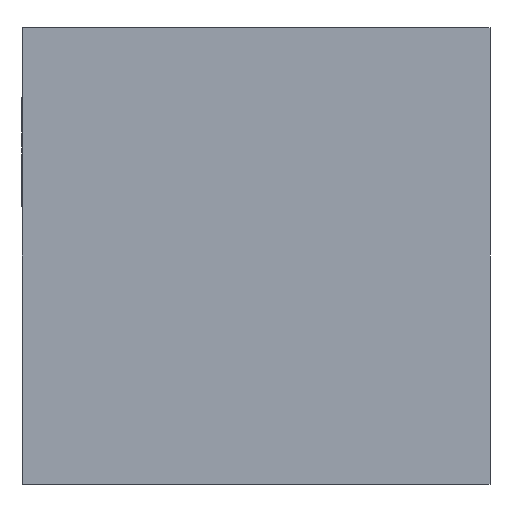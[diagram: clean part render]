
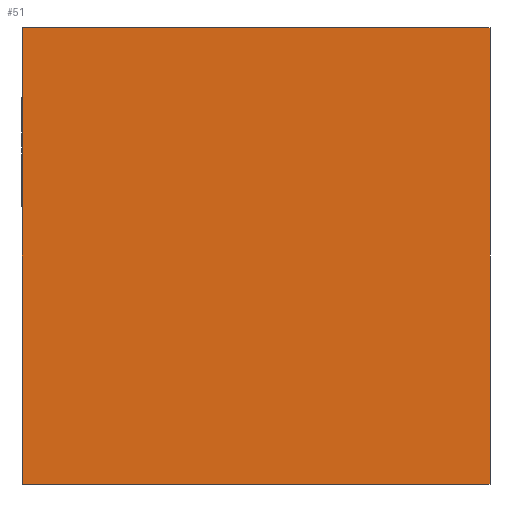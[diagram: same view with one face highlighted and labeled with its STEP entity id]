
A CAD part, front view. The second image highlights one B-rep face of the part: STEP entity #51.
In plain terms, the highlighted planar face has unit normal (0, -1, 0).
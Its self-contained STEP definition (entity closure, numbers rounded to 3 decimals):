
#3 = CARTESIAN_POINT ( 'NONE',  ( 30.5, -35.5, -20. ) ) ;
#31 = FACE_OUTER_BOUND ( 'NONE', #83, .T. ) ;
#50 = VERTEX_POINT ( 'NONE', #880 ) ;
#51 = ADVANCED_FACE ( 'NONE', ( #31 ), #446, .F. ) ;
#83 = EDGE_LOOP ( 'NONE', ( #300, #285, #428, #745 ) ) ;
#155 = DIRECTION ( 'NONE',  ( 1., 0., 0. ) ) ;
#161 = CARTESIAN_POINT ( 'NONE',  ( -10.5, -35.5, 20. ) ) ;
#226 = LINE ( 'NONE', #506, #423 ) ;
#257 = VERTEX_POINT ( 'NONE', #339 ) ;
#281 = EDGE_CURVE ( 'NONE', #625, #50, #706, .T. ) ;
#285 = ORIENTED_EDGE ( 'NONE', *, *, #302, .F. ) ;
#300 = ORIENTED_EDGE ( 'NONE', *, *, #540, .T. ) ;
#302 = EDGE_CURVE ( 'NONE', #50, #580, #560, .T. ) ;
#339 = CARTESIAN_POINT ( 'NONE',  ( -10.5, -35.5, 20. ) ) ;
#381 = VECTOR ( 'NONE', #683, 1000. ) ;
#399 = AXIS2_PLACEMENT_3D ( 'NONE', #161, #799, #661 ) ;
#418 = VECTOR ( 'NONE', #762, 1000. ) ;
#423 = VECTOR ( 'NONE', #155, 1000. ) ;
#428 = ORIENTED_EDGE ( 'NONE', *, *, #281, .F. ) ;
#446 = PLANE ( 'NONE',  #399 ) ;
#459 = CARTESIAN_POINT ( 'NONE',  ( -10.5, -35.5, -20. ) ) ;
#478 = CARTESIAN_POINT ( 'NONE',  ( 30.5, -35.5, 20. ) ) ;
#506 = CARTESIAN_POINT ( 'NONE',  ( -10.5, -35.5, 20. ) ) ;
#529 = LINE ( 'NONE', #687, #381 ) ;
#539 = VECTOR ( 'NONE', #842, 1000. ) ;
#540 = EDGE_CURVE ( 'NONE', #257, #580, #529, .T. ) ;
#560 = LINE ( 'NONE', #3, #539 ) ;
#580 = VERTEX_POINT ( 'NONE', #459 ) ;
#625 = VERTEX_POINT ( 'NONE', #802 ) ;
#661 = DIRECTION ( 'NONE',  ( 0., 0., 1. ) ) ;
#683 = DIRECTION ( 'NONE',  ( 0., 0., -1. ) ) ;
#687 = CARTESIAN_POINT ( 'NONE',  ( -10.5, -35.5, 20. ) ) ;
#706 = LINE ( 'NONE', #478, #418 ) ;
#745 = ORIENTED_EDGE ( 'NONE', *, *, #891, .F. ) ;
#762 = DIRECTION ( 'NONE',  ( 0., 0., -1. ) ) ;
#799 = DIRECTION ( 'NONE',  ( 0., 1., 0. ) ) ;
#802 = CARTESIAN_POINT ( 'NONE',  ( 30.5, -35.5, 20. ) ) ;
#842 = DIRECTION ( 'NONE',  ( -1., 0., 0. ) ) ;
#880 = CARTESIAN_POINT ( 'NONE',  ( 30.5, -35.5, -20. ) ) ;
#891 = EDGE_CURVE ( 'NONE', #257, #625, #226, .T. ) ;
